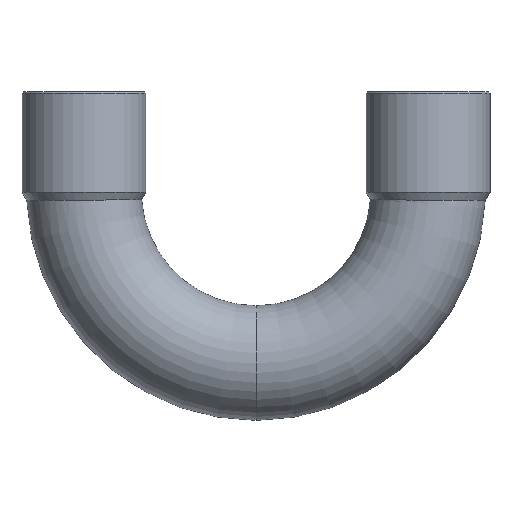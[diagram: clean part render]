
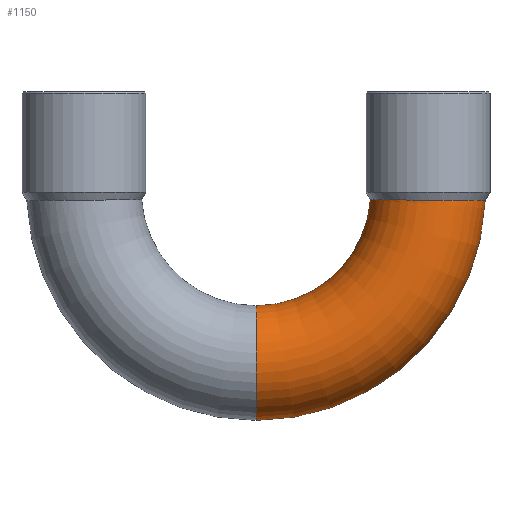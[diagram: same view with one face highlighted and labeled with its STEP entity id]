
A CAD part, front view. The second image highlights one B-rep face of the part: STEP entity #1150.
In plain terms, the highlighted toroidal (fillet/blend) face has major radius 22.5 mm and minor radius 7.5 mm.
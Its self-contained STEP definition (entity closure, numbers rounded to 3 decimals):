
#51=CARTESIAN_POINT('',(22.035,0.,-30.0));
#52=VERTEX_POINT('',#51);
#85=CARTESIAN_POINT('',(22.035,0.,-15.0));
#86=VERTEX_POINT('',#85);
#109=CARTESIAN_POINT('',(52.009,0.,-1.245));
#110=VERTEX_POINT('',#109);
#111=CARTESIAN_POINT('',(22.035,0.,0.0));
#112=DIRECTION('',(0.0,-1.0,0.0));
#113=DIRECTION('',(0.0,0.0,-1.0));
#114=AXIS2_PLACEMENT_3D('',#111,#112,#113);
#115=CIRCLE('',#114,30.0);
#116=EDGE_CURVE('',#52,#110,#115,.T.);
#119=CARTESIAN_POINT('',(36.993,0.,-1.127));
#120=VERTEX_POINT('',#119);
#121=CARTESIAN_POINT('',(22.035,0.,0.0));
#122=DIRECTION('',(0.0,1.0,0.0));
#123=DIRECTION('',(0.0,0.0,-1.0));
#124=AXIS2_PLACEMENT_3D('',#121,#122,#123);
#125=CIRCLE('',#124,15.0);
#126=EDGE_CURVE('',#120,#86,#125,.T.);
#1111=CARTESIAN_POINT('',(22.035,0.,0.0));
#1112=DIRECTION('',(0.0,-1.0,0.0));
#1113=DIRECTION('',(0.0,0.0,-1.0));
#1114=AXIS2_PLACEMENT_3D('',#1111,#1112,#1113);
#1115=TOROIDAL_SURFACE('',#1114,22.5,7.5);
#1116=ORIENTED_EDGE('',*,*,#116,.T.);
#1117=CARTESIAN_POINT('',(52.009,0.,-1.245));
#1118=CARTESIAN_POINT('',(52.009,-0.553,-1.245));
#1119=CARTESIAN_POINT('',(51.948,-1.104,-1.244));
#1120=CARTESIAN_POINT('',(51.706,-2.182,-1.243));
#1121=CARTESIAN_POINT('',(51.525,-2.706,-1.242));
#1122=CARTESIAN_POINT('',(50.871,-4.089,-1.239));
#1123=CARTESIAN_POINT('',(50.285,-4.882,-1.236));
#1124=CARTESIAN_POINT('',(48.84,-6.199,-1.228));
#1125=CARTESIAN_POINT('',(47.996,-6.71,-1.223));
#1126=CARTESIAN_POINT('',(46.158,-7.381,-1.212));
#1127=CARTESIAN_POINT('',(45.182,-7.533,-1.205));
#1128=CARTESIAN_POINT('',(43.226,-7.455,-1.19));
#1129=CARTESIAN_POINT('',(42.265,-7.226,-1.182));
#1130=CARTESIAN_POINT('',(40.486,-6.411,-1.166));
#1131=CARTESIAN_POINT('',(39.685,-5.835,-1.158));
#1132=CARTESIAN_POINT('',(38.35,-4.409,-1.143));
#1133=CARTESIAN_POINT('',(37.828,-3.573,-1.137));
#1134=CARTESIAN_POINT('',(37.158,-1.81,-1.129));
#1135=CARTESIAN_POINT('',(36.993,-0.909,-1.127));
#1136=CARTESIAN_POINT('',(36.993,0.,-1.127));
#1137=B_SPLINE_CURVE_WITH_KNOTS('',3,(#1117,#1118,#1119,#1120,#1121,#1122,#1123,#1124,#1125,#1126,#1127,#1128,#1129,#1130,#1131,#1132,#1133,#1134,#1135,#1136),.UNSPECIFIED.,.F.,.U.,(4,2,2,2,2,2,2,2,2,4),(-4.729,-4.563,-4.397,-4.104,-3.811,-3.517,-3.224,-2.931,-2.638,-2.365),.UNSPECIFIED.);
#1138=EDGE_CURVE('',#110,#120,#1137,.T.);
#1139=ORIENTED_EDGE('',*,*,#1138,.T.);
#1140=ORIENTED_EDGE('',*,*,#126,.T.);
#1141=CARTESIAN_POINT('',(22.035,0.,-22.5));
#1142=DIRECTION('',(-1.0,0.0,0.0));
#1143=DIRECTION('',(0.0,0.0,-1.0));
#1144=AXIS2_PLACEMENT_3D('',#1141,#1142,#1143);
#1145=CIRCLE('',#1144,7.5);
#1146=EDGE_CURVE('',#52,#86,#1145,.T.);
#1147=ORIENTED_EDGE('',*,*,#1146,.F.);
#1148=EDGE_LOOP('',(#1116,#1139,#1140,#1147));
#1149=FACE_OUTER_BOUND('',#1148,.T.);
#1150=ADVANCED_FACE('',(#1149),#1115,.T.);
